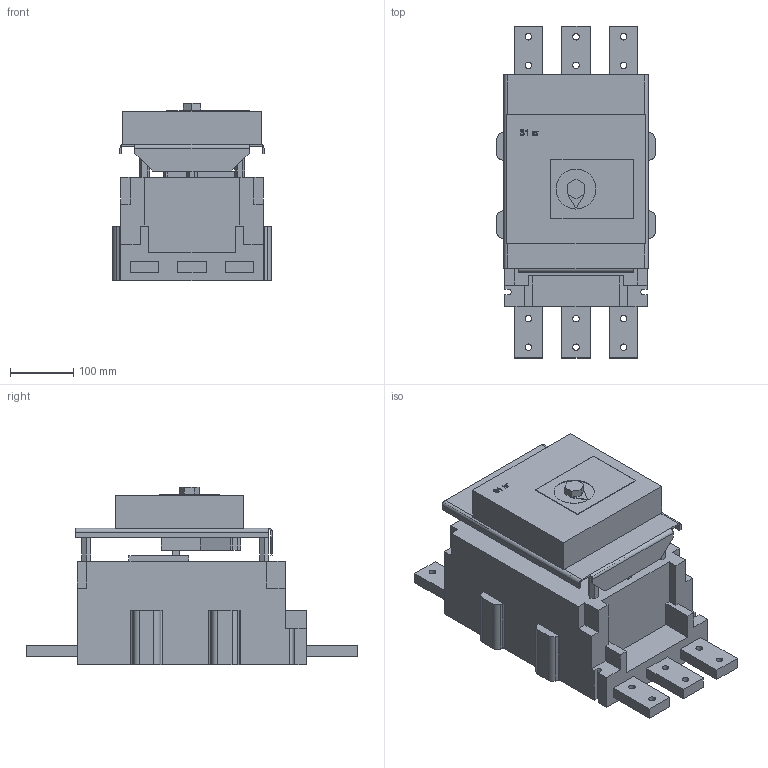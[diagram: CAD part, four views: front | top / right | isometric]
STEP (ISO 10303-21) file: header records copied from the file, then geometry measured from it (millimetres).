
FILE_DESCRIPTION (( 'STEP AP214' ), '1' );
FILE_NAME ('ÂÀ52(56)-41 ñ ÝÌ ïðèâîäîì.STEP', '2023-02-10T06:43:14', ( 'user' ), ( '' ), 'SwSTEP 2.0', 'SolidWorks 2018', '' );
FILE_SCHEMA (( 'AUTOMOTIVE_DESIGN' ));
Length unit declared in the file: millimetre
Products named in the file (1): ÂÀ52(56)-41 ñ ÝÌ ïðèâîäîì
Bounding box: 250 x 523 x 279.15 mm (x, y, z)
Volume: 15877205.9 mm3; surface area: 716729.8 mm2
Topology: 5 solids, 5 shells, 251 faces, 708 edges, 486 vertices
Faces by surface type: plane 196, cylinder 55
Entity records: 8552 total; most frequent: CARTESIAN_POINT 1754, ORIENTED_EDGE 1416, DIRECTION 1299, EDGE_CURVE 708, LINE 575, VECTOR 575, VERTEX_POINT 486, AXIS2_PLACEMENT_3D 362
